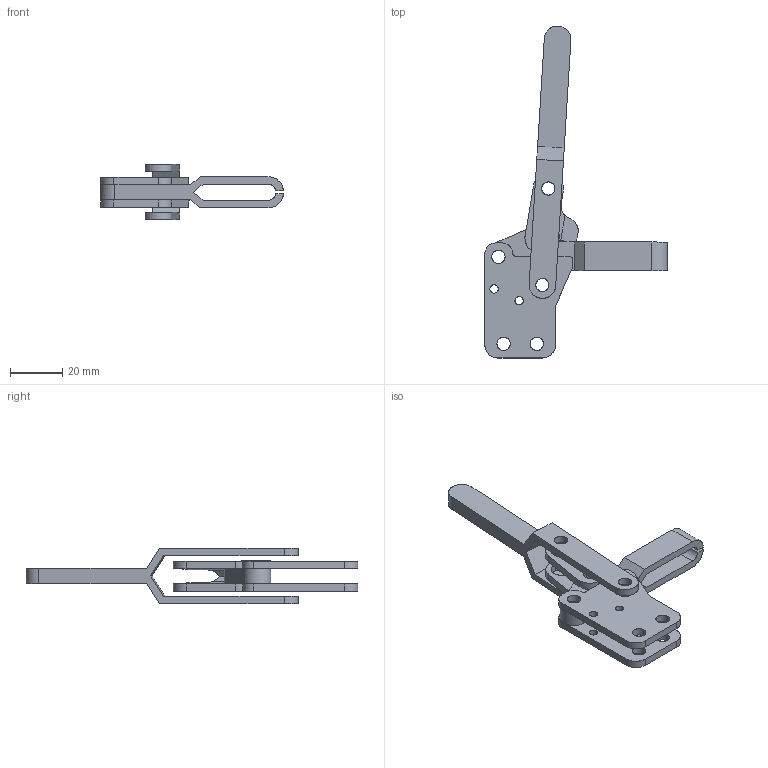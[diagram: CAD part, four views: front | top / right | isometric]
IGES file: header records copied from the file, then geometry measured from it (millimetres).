
Start section: Comment
Global section: file name: 11501b.igs; native system:  By Spatial Corp.; preprocessor: XPlus PS/IGES 3.0; author: Author; organization: Title; date: 20050216.165128; units: inch
Bounding box: 69.98 x 127.02 x 21.4 mm (x, y, z)
Surface area: 15957.3 mm2 (no closed solid volume)
Topology: 0 solids, 0 shells, 147 faces, 846 edges, 846 vertices
Faces by surface type: revolution 81, extrusion 66
